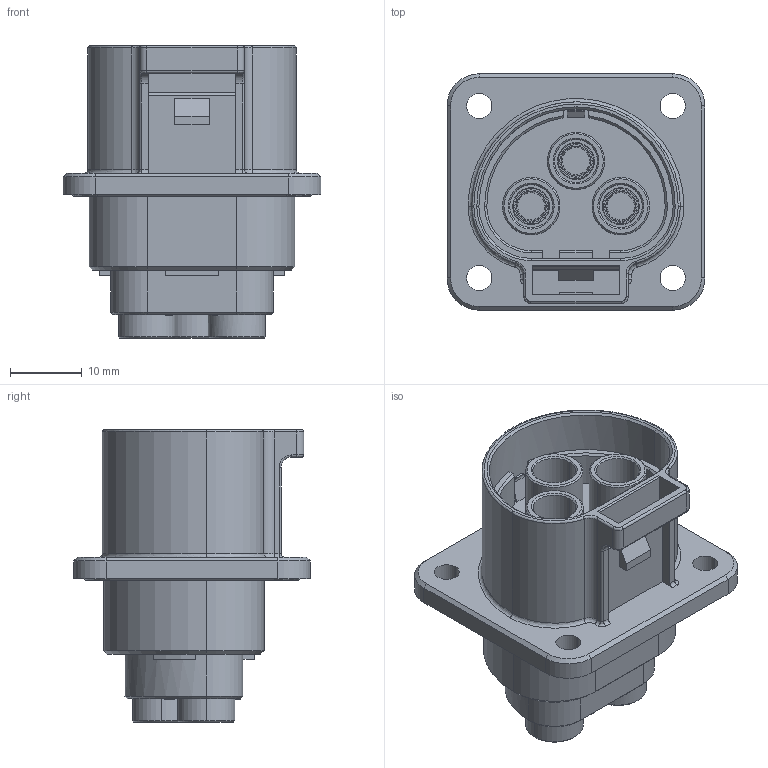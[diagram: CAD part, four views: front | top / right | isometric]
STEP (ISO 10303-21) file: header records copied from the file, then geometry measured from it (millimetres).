
FILE_DESCRIPTION (( 'STEP AP214' ), '1' );
FILE_NAME ('PL083X-41.STEP', '2016-05-06T08:49:34', ( '' ), ( '' ), 'SwSTEP 2.0', 'SolidWorks 2014', '' );
FILE_SCHEMA (( 'AUTOMOTIVE_DESIGN' ));
Length unit declared in the file: millimetre
Products named in the file (1): PL083X-41
Bounding box: 36 x 33 x 40.8 mm (x, y, z)
Volume: 15980.8 mm3; surface area: 10106.1 mm2
Topology: 1 solids, 6 shells, 731 faces, 2047 edges, 1330 vertices
Faces by surface type: cylinder 310, plane 259, bspline 109, cone 53
Entity records: 34861 total; most frequent: CARTESIAN_POINT 9160, ORIENTED_EDGE 4094, DIRECTION 3391, EDGE_CURVE 2047, VERTEX_POINT 1330, AXIS2_PLACEMENT_3D 1227, LINE 937, VECTOR 937
